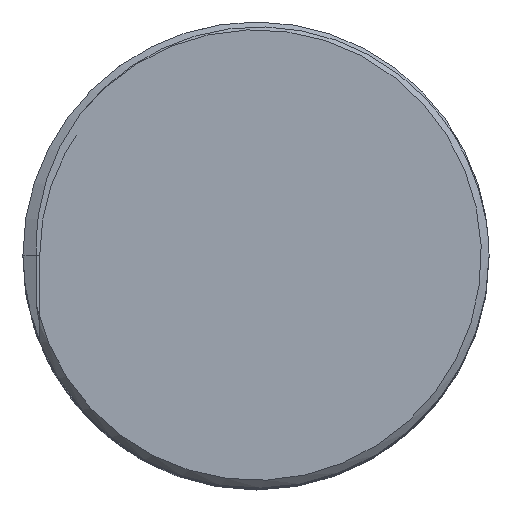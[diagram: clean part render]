
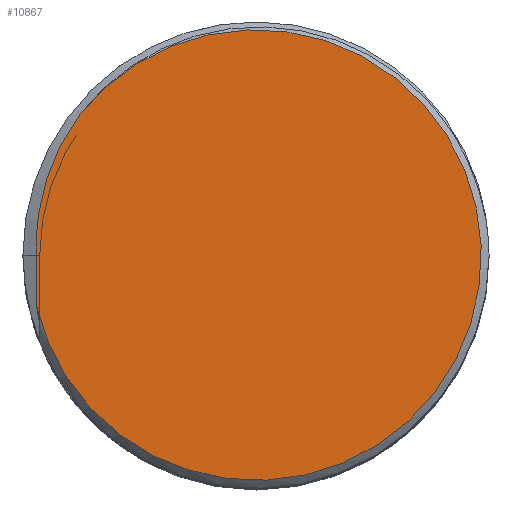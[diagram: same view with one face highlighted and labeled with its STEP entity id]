
A CAD part, top view. The second image highlights one B-rep face of the part: STEP entity #10867.
In plain terms, the highlighted planar face has unit normal (0, 0, 1).
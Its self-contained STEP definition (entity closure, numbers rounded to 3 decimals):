
#58 = EDGE_CURVE ( 'NONE', #1625, #817, #9076, .T. ) ;
#107 = CARTESIAN_POINT ( 'NONE',  ( -13.637, 4.335, 53. ) ) ;
#381 = EDGE_LOOP ( 'NONE', ( #6662, #8359, #10182 ) ) ;
#416 = CARTESIAN_POINT ( 'NONE',  ( -14.134, 0., 53. ) ) ;
#460 = CARTESIAN_POINT ( 'NONE',  ( 0., 0., 53. ) ) ;
#518 = DIRECTION ( 'NONE',  ( 1., 0., 0. ) ) ;
#817 = VERTEX_POINT ( 'NONE', #8044 ) ;
#878 = CARTESIAN_POINT ( 'NONE',  ( -13.973, 2.781, 53. ) ) ;
#931 = CARTESIAN_POINT ( 'NONE',  ( -11.862, 8.297, 53. ) ) ;
#1388 = VECTOR ( 'NONE', #7380, 1000. ) ;
#1418 = CARTESIAN_POINT ( 'NONE',  ( -14.134, -3.237, 53. ) ) ;
#1625 = VERTEX_POINT ( 'NONE', #1418 ) ;
#1698 = CARTESIAN_POINT ( 'NONE',  ( -13., 6.199, 53. ) ) ;
#2076 = EDGE_CURVE ( 'NONE', #1625, #7802, #5960, .T. ) ;
#2270 = EDGE_CURVE ( 'NONE', #817, #7802, #4365, .T. ) ;
#2515 = CARTESIAN_POINT ( 'NONE',  ( -11.643, 8.627, 53. ) ) ;
#3045 = DIRECTION ( 'NONE',  ( 0., 0., 1. ) ) ;
#3344 = CARTESIAN_POINT ( 'NONE',  ( -12.275, 7.618, 53. ) ) ;
#3455 = CARTESIAN_POINT ( 'NONE',  ( -13.904, 3.176, 53. ) ) ;
#3941 = CARTESIAN_POINT ( 'NONE',  ( 0., 0., 53. ) ) ;
#4215 = CARTESIAN_POINT ( 'NONE',  ( -14.164, 0.799, 53. ) ) ;
#4268 = CARTESIAN_POINT ( 'NONE',  ( -12.469, 7.266, 53. ) ) ;
#4339 = AXIS2_PLACEMENT_3D ( 'NONE', #460, #3045, #518 ) ;
#4365 = B_SPLINE_CURVE_WITH_KNOTS ( 'NONE', 3,
 ( #8455, #2515, #931, #3344, #4268, #1698, #7629, #107, #10161, #3455, #878, #5984, #4215, #9329 ),
 .UNSPECIFIED., .F., .F.,
 ( 4, 2, 2, 2, 2, 2, 4 ),
 ( 0.011, 0.012, 0.013, 0.016, 0.017, 0.018, 0.02 ),
 .UNSPECIFIED. ) ;
#4759 = AXIS2_PLACEMENT_3D ( 'NONE', #3941, #10594, #9876 ) ;
#5960 = LINE ( 'NONE', #8317, #1388 ) ;
#5984 = CARTESIAN_POINT ( 'NONE',  ( -14.127, 1.595, 53. ) ) ;
#6662 = ORIENTED_EDGE ( 'NONE', *, *, #2076, .F. ) ;
#7380 = DIRECTION ( 'NONE',  ( 0., 1., 0. ) ) ;
#7629 = CARTESIAN_POINT ( 'NONE',  ( -13.291, 5.466, 53. ) ) ;
#7802 = VERTEX_POINT ( 'NONE', #416 ) ;
#8044 = CARTESIAN_POINT ( 'NONE',  ( -11.411, 8.946, 53. ) ) ;
#8317 = CARTESIAN_POINT ( 'NONE',  ( -14.134, -53., 53. ) ) ;
#8359 = ORIENTED_EDGE ( 'NONE', *, *, #58, .T. ) ;
#8455 = CARTESIAN_POINT ( 'NONE',  ( -11.411, 8.946, 53. ) ) ;
#8726 = PLANE ( 'NONE',  #4759 ) ;
#9076 = CIRCLE ( 'NONE', #4339, 14.5 ) ;
#9329 = CARTESIAN_POINT ( 'NONE',  ( -14.134, 0., 53. ) ) ;
#9501 = FACE_OUTER_BOUND ( 'NONE', #381, .T. ) ;
#9876 = DIRECTION ( 'NONE',  ( 1., 0., 0. ) ) ;
#10161 = CARTESIAN_POINT ( 'NONE',  ( -13.736, 3.952, 53. ) ) ;
#10182 = ORIENTED_EDGE ( 'NONE', *, *, #2270, .T. ) ;
#10594 = DIRECTION ( 'NONE',  ( 0., 0., 1. ) ) ;
#10867 = ADVANCED_FACE ( 'NONE', ( #9501 ), #8726, .T. ) ;
